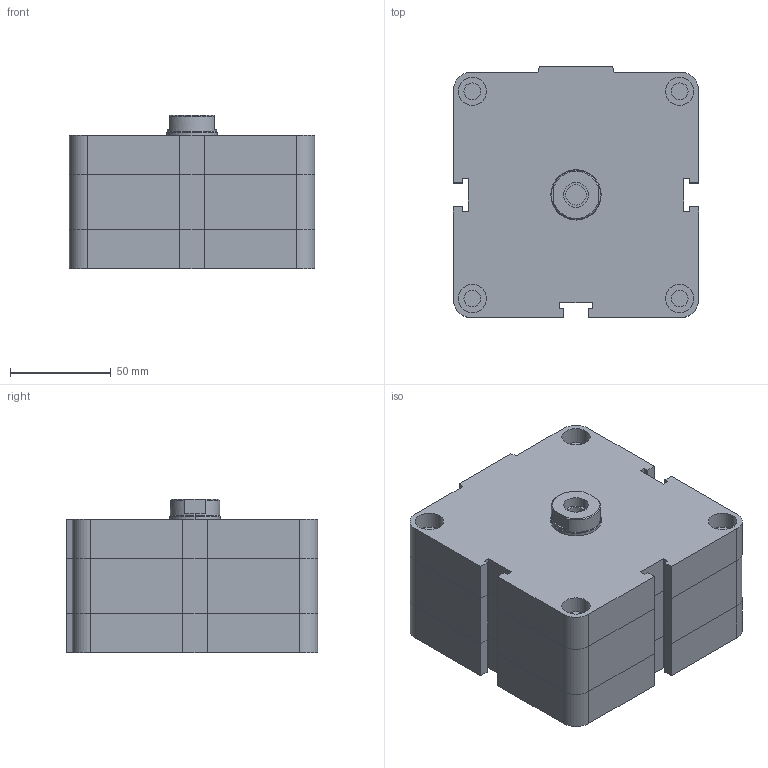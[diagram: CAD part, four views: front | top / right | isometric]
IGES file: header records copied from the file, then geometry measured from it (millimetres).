
Global section: file name: No Iges File Name specified; native system: Autodesk Inventor 2009; preprocessor: AutoDesk Inventor Iges Exporter R2009; author: rivolro1; date: 20081219.155319; units: millimetre
Bounding box: 122 x 125 x 76.5 mm (x, y, z)
Volume: 955767.1 mm3; surface area: 78097.5 mm2
Topology: 2 solids, 2 shells, 187 faces, 410 edges, 248 vertices
Faces by surface type: plane 112, bspline 39, revolution 16, cylinder 16, cone 4
